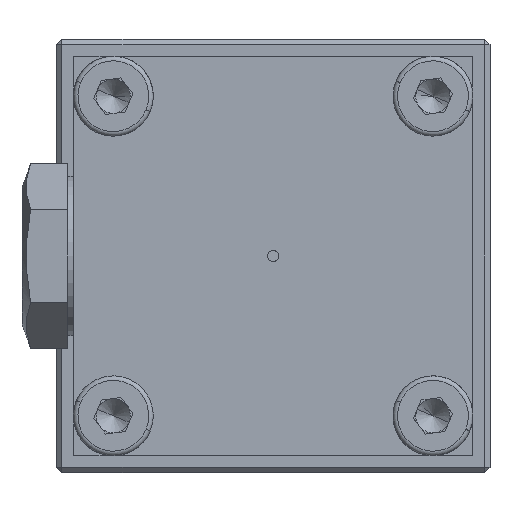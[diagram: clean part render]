
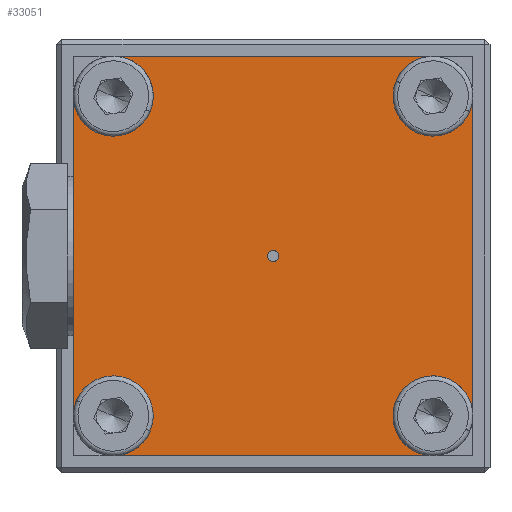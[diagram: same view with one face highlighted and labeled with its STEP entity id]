
A CAD part, left-side view. The second image highlights one B-rep face of the part: STEP entity #33051.
In plain terms, the highlighted planar face has unit normal (-1, 0, 0).
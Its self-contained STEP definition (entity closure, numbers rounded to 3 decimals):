
#305 = CIRCLE ( 'NONE', #16660, 3.5 ) ;
#636 = DIRECTION ( 'NONE',  ( -1., 0., 0. ) ) ;
#728 = DIRECTION ( 'NONE',  ( 0., 0.924, 0.382 ) ) ;
#781 = AXIS2_PLACEMENT_3D ( 'NONE', #16285, #48162, #20829 ) ;
#1154 = DIRECTION ( 'NONE',  ( 1., 0., 0. ) ) ;
#2397 = AXIS2_PLACEMENT_3D ( 'NONE', #15691, #47576, #20259 ) ;
#3227 = VECTOR ( 'NONE', #56838, 1000. ) ;
#3719 = EDGE_CURVE ( 'NONE', #51544, #18615, #53421, .T. ) ;
#4014 = CARTESIAN_POINT ( 'NONE',  ( -19., -14., 14. ) ) ;
#5253 = ORIENTED_EDGE ( 'NONE', *, *, #3719, .F. ) ;
#5854 = ORIENTED_EDGE ( 'NONE', *, *, #55589, .T. ) ;
#6994 = CARTESIAN_POINT ( 'NONE',  ( -19., 10.765, -15.336 ) ) ;
#7159 = ORIENTED_EDGE ( 'NONE', *, *, #28788, .F. ) ;
#7635 = DIRECTION ( 'NONE',  ( 1., 0., 0. ) ) ;
#8497 = AXIS2_PLACEMENT_3D ( 'NONE', #28381, #1154, #32963 ) ;
#8504 = ORIENTED_EDGE ( 'NONE', *, *, #53684, .F. ) ;
#8634 = DIRECTION ( 'NONE',  ( 0., 0.924, 0.382 ) ) ;
#9097 = CIRCLE ( 'NONE', #11812, 3.5 ) ;
#9275 = VERTEX_POINT ( 'NONE', #52144 ) ;
#9322 = CARTESIAN_POINT ( 'NONE',  ( -19., 14., 14. ) ) ;
#9860 = CARTESIAN_POINT ( 'NONE',  ( -19., 10.765, 12.664 ) ) ;
#10822 = EDGE_CURVE ( 'NONE', #28301, #32819, #47009, .T. ) ;
#11276 = CARTESIAN_POINT ( 'NONE',  ( -19., -14., 17.5 ) ) ;
#11812 = AXIS2_PLACEMENT_3D ( 'NONE', #27872, #636, #32463 ) ;
#12015 = PLANE ( 'NONE',  #56269 ) ;
#12110 = CARTESIAN_POINT ( 'NONE',  ( -19., 17.5, -14. ) ) ;
#12951 = ORIENTED_EDGE ( 'NONE', *, *, #46804, .F. ) ;
#13313 = DIRECTION ( 'NONE',  ( -1., 0., 0. ) ) ;
#13588 = CARTESIAN_POINT ( 'NONE',  ( -19., 14., 17.5 ) ) ;
#13806 = CARTESIAN_POINT ( 'NONE',  ( -19., 14., -14. ) ) ;
#13904 = DIRECTION ( 'NONE',  ( 0., 0.924, 0.382 ) ) ;
#14033 = DIRECTION ( 'NONE',  ( 0., -1., 0. ) ) ;
#14677 = CARTESIAN_POINT ( 'NONE',  ( -19., 14., -14. ) ) ;
#14731 = AXIS2_PLACEMENT_3D ( 'NONE', #55267, #27969, #728 ) ;
#15691 = CARTESIAN_POINT ( 'NONE',  ( -19., 0., 0. ) ) ;
#16285 = CARTESIAN_POINT ( 'NONE',  ( -19., 14., -14. ) ) ;
#16660 = AXIS2_PLACEMENT_3D ( 'NONE', #17280, #49139, #21853 ) ;
#16746 = ORIENTED_EDGE ( 'NONE', *, *, #44313, .T. ) ;
#17027 = ORIENTED_EDGE ( 'NONE', *, *, #17742, .F. ) ;
#17280 = CARTESIAN_POINT ( 'NONE',  ( -19., 14., 14. ) ) ;
#17742 = EDGE_CURVE ( 'NONE', #41296, #50636, #36319, .T. ) ;
#18306 = DIRECTION ( 'NONE',  ( 0., 0.924, 0.382 ) ) ;
#18401 = EDGE_CURVE ( 'NONE', #31940, #41296, #9097, .T. ) ;
#18615 = VERTEX_POINT ( 'NONE', #6994 ) ;
#19010 = EDGE_CURVE ( 'NONE', #18615, #36111, #33082, .T. ) ;
#19214 = DIRECTION ( 'NONE',  ( 0., 0.924, 0.382 ) ) ;
#19389 = ORIENTED_EDGE ( 'NONE', *, *, #50784, .F. ) ;
#19514 = LINE ( 'NONE', #48740, #54457 ) ;
#20259 = DIRECTION ( 'NONE',  ( 0., 0., -1. ) ) ;
#20829 = DIRECTION ( 'NONE',  ( 0., 0.924, 0.382 ) ) ;
#21170 = VERTEX_POINT ( 'NONE', #11276 ) ;
#21172 = VERTEX_POINT ( 'NONE', #38872 ) ;
#21491 = EDGE_LOOP ( 'NONE', ( #19389, #23046, #48527, #7159, #37627, #47102, #36080, #5253, #5854, #27527, #12951, #8504, #17027, #57569 ) ) ;
#21740 = AXIS2_PLACEMENT_3D ( 'NONE', #9322, #41089, #13904 ) ;
#21853 = DIRECTION ( 'NONE',  ( 0., 0.924, 0.382 ) ) ;
#22945 = CARTESIAN_POINT ( 'NONE',  ( -19., -10.765, 15.336 ) ) ;
#23046 = ORIENTED_EDGE ( 'NONE', *, *, #35550, .F. ) ;
#23784 = ORIENTED_EDGE ( 'NONE', *, *, #10822, .T. ) ;
#23808 = CARTESIAN_POINT ( 'NONE',  ( -19., -10.765, -12.664 ) ) ;
#24546 = CARTESIAN_POINT ( 'NONE',  ( -19., 14., -17.5 ) ) ;
#25055 = FACE_BOUND ( 'NONE', #48725, .T. ) ;
#26038 = DIRECTION ( 'NONE',  ( 0., -1., 0. ) ) ;
#26420 = AXIS2_PLACEMENT_3D ( 'NONE', #40519, #13313, #45092 ) ;
#26821 = DIRECTION ( 'NONE',  ( -1., 0., 0. ) ) ;
#27527 = ORIENTED_EDGE ( 'NONE', *, *, #32115, .F. ) ;
#27872 = CARTESIAN_POINT ( 'NONE',  ( -19., -14., 14. ) ) ;
#27896 = CARTESIAN_POINT ( 'NONE',  ( -19., 0., -0.5 ) ) ;
#27969 = DIRECTION ( 'NONE',  ( -1., 0., 0. ) ) ;
#28301 = VERTEX_POINT ( 'NONE', #41128 ) ;
#28381 = CARTESIAN_POINT ( 'NONE',  ( -19., 0., 0. ) ) ;
#28788 = EDGE_CURVE ( 'NONE', #9275, #38076, #305, .T. ) ;
#29535 = CARTESIAN_POINT ( 'NONE',  ( -19., 17.5, 17.5 ) ) ;
#30315 = CIRCLE ( 'NONE', #781, 3.5 ) ;
#31940 = VERTEX_POINT ( 'NONE', #22945 ) ;
#32115 = EDGE_CURVE ( 'NONE', #34395, #21172, #42805, .T. ) ;
#32181 = CIRCLE ( 'NONE', #14731, 3.5 ) ;
#32463 = DIRECTION ( 'NONE',  ( 0., 0.924, 0.382 ) ) ;
#32657 = LINE ( 'NONE', #45815, #44750 ) ;
#32819 = VERTEX_POINT ( 'NONE', #27896 ) ;
#32963 = DIRECTION ( 'NONE',  ( 0., 0., -1. ) ) ;
#33051 = ADVANCED_FACE ( 'NONE', ( #35795, #25055 ), #12015, .F. ) ;
#33082 = CIRCLE ( 'NONE', #37752, 3.5 ) ;
#34299 = DIRECTION ( 'NONE',  ( 0., 0., -1. ) ) ;
#34395 = VERTEX_POINT ( 'NONE', #23808 ) ;
#34600 = LINE ( 'NONE', #43435, #43841 ) ;
#34861 = CARTESIAN_POINT ( 'NONE',  ( -19., -17.5, 17.5 ) ) ;
#35047 = CARTESIAN_POINT ( 'NONE',  ( -19., -17.5, 14. ) ) ;
#35208 = CIRCLE ( 'NONE', #21740, 3.5 ) ;
#35450 = CARTESIAN_POINT ( 'NONE',  ( -19., -17.5, -14. ) ) ;
#35550 = EDGE_CURVE ( 'NONE', #45421, #21170, #19514, .T. ) ;
#35562 = CIRCLE ( 'NONE', #8497, 0.5 ) ;
#35795 = FACE_OUTER_BOUND ( 'NONE', #21491, .T. ) ;
#35894 = DIRECTION ( 'NONE',  ( -1., 0., 0. ) ) ;
#36080 = ORIENTED_EDGE ( 'NONE', *, *, #19010, .F. ) ;
#36111 = VERTEX_POINT ( 'NONE', #55342 ) ;
#36319 = CIRCLE ( 'NONE', #41810, 3.5 ) ;
#37627 = ORIENTED_EDGE ( 'NONE', *, *, #49721, .T. ) ;
#37752 = AXIS2_PLACEMENT_3D ( 'NONE', #14677, #46525, #19214 ) ;
#38076 = VERTEX_POINT ( 'NONE', #9860 ) ;
#38263 = AXIS2_PLACEMENT_3D ( 'NONE', #54126, #26821, #58720 ) ;
#38872 = CARTESIAN_POINT ( 'NONE',  ( -19., -14., -17.5 ) ) ;
#39097 = EDGE_CURVE ( 'NONE', #38076, #45421, #35208, .T. ) ;
#39411 = DIRECTION ( 'NONE',  ( 0., 0., -1. ) ) ;
#39591 = CARTESIAN_POINT ( 'NONE',  ( -19., -17.235, 12.664 ) ) ;
#40519 = CARTESIAN_POINT ( 'NONE',  ( -19., -14., -14. ) ) ;
#40537 = CIRCLE ( 'NONE', #38263, 3.5 ) ;
#41089 = DIRECTION ( 'NONE',  ( -1., 0., 0. ) ) ;
#41128 = CARTESIAN_POINT ( 'NONE',  ( -19., 0., 0.5 ) ) ;
#41296 = VERTEX_POINT ( 'NONE', #39591 ) ;
#41810 = AXIS2_PLACEMENT_3D ( 'NONE', #4014, #35894, #8634 ) ;
#41962 = AXIS2_PLACEMENT_3D ( 'NONE', #13806, #45586, #18306 ) ;
#42805 = CIRCLE ( 'NONE', #26420, 3.5 ) ;
#43435 = CARTESIAN_POINT ( 'NONE',  ( -19., -17.5, 17.5 ) ) ;
#43841 = VECTOR ( 'NONE', #34299, 1000. ) ;
#44313 = EDGE_CURVE ( 'NONE', #32819, #28301, #35562, .T. ) ;
#44750 = VECTOR ( 'NONE', #14033, 1000. ) ;
#45092 = DIRECTION ( 'NONE',  ( 0., 0.924, 0.382 ) ) ;
#45421 = VERTEX_POINT ( 'NONE', #13588 ) ;
#45586 = DIRECTION ( 'NONE',  ( -1., 0., 0. ) ) ;
#45815 = CARTESIAN_POINT ( 'NONE',  ( -19., -17.5, -17.5 ) ) ;
#46525 = DIRECTION ( 'NONE',  ( -1., 0., 0. ) ) ;
#46804 = EDGE_CURVE ( 'NONE', #50717, #34395, #32181, .T. ) ;
#47009 = CIRCLE ( 'NONE', #2397, 0.5 ) ;
#47102 = ORIENTED_EDGE ( 'NONE', *, *, #49122, .F. ) ;
#47576 = DIRECTION ( 'NONE',  ( 1., 0., 0. ) ) ;
#48162 = DIRECTION ( 'NONE',  ( -1., 0., 0. ) ) ;
#48527 = ORIENTED_EDGE ( 'NONE', *, *, #39097, .F. ) ;
#48725 = EDGE_LOOP ( 'NONE', ( #16746, #23784 ) ) ;
#48740 = CARTESIAN_POINT ( 'NONE',  ( -19., -17.5, 17.5 ) ) ;
#49122 = EDGE_CURVE ( 'NONE', #36111, #49817, #30315, .T. ) ;
#49139 = DIRECTION ( 'NONE',  ( -1., 0., 0. ) ) ;
#49721 = EDGE_CURVE ( 'NONE', #9275, #49817, #50212, .T. ) ;
#49817 = VERTEX_POINT ( 'NONE', #12110 ) ;
#50212 = LINE ( 'NONE', #29535, #3227 ) ;
#50636 = VERTEX_POINT ( 'NONE', #35047 ) ;
#50717 = VERTEX_POINT ( 'NONE', #35450 ) ;
#50784 = EDGE_CURVE ( 'NONE', #21170, #31940, #40537, .T. ) ;
#51544 = VERTEX_POINT ( 'NONE', #24546 ) ;
#52144 = CARTESIAN_POINT ( 'NONE',  ( -19., 17.5, 14. ) ) ;
#53421 = CIRCLE ( 'NONE', #41962, 3.5 ) ;
#53684 = EDGE_CURVE ( 'NONE', #50636, #50717, #34600, .T. ) ;
#54126 = CARTESIAN_POINT ( 'NONE',  ( -19., -14., 14. ) ) ;
#54457 = VECTOR ( 'NONE', #26038, 1000. ) ;
#55267 = CARTESIAN_POINT ( 'NONE',  ( -19., -14., -14. ) ) ;
#55342 = CARTESIAN_POINT ( 'NONE',  ( -19., 17.235, -12.664 ) ) ;
#55589 = EDGE_CURVE ( 'NONE', #51544, #21172, #32657, .T. ) ;
#56269 = AXIS2_PLACEMENT_3D ( 'NONE', #34861, #7635, #39411 ) ;
#56838 = DIRECTION ( 'NONE',  ( 0., 0., -1. ) ) ;
#57569 = ORIENTED_EDGE ( 'NONE', *, *, #18401, .F. ) ;
#58720 = DIRECTION ( 'NONE',  ( 0., 0.924, 0.382 ) ) ;
